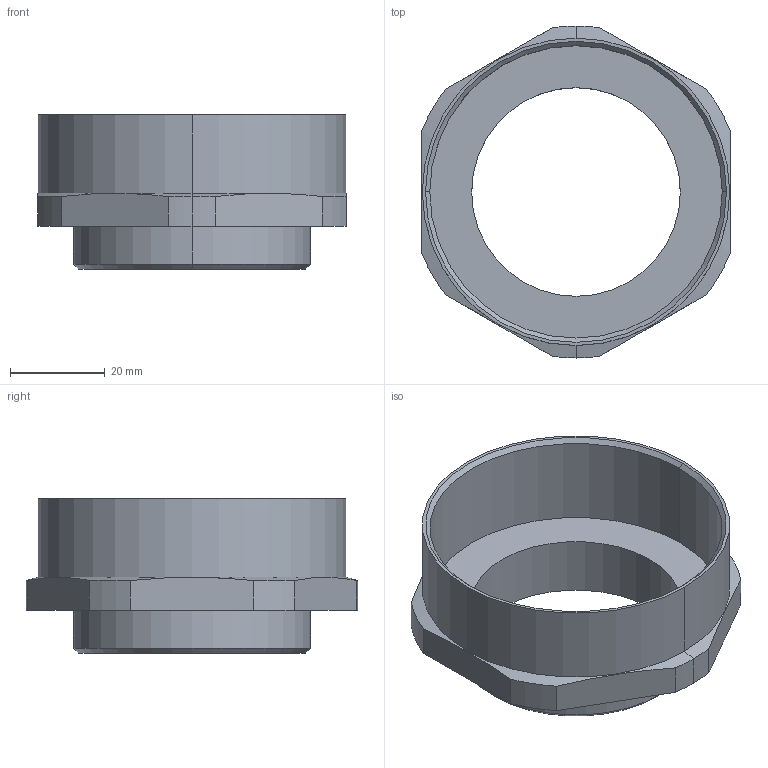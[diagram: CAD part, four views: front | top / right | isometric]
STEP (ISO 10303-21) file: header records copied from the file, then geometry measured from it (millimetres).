
FILE_DESCRIPTION (( 'STEP AP203' ), '1' );
FILE_NAME ('M50M63-FR.STEP', '2005-10-10T08:36:12', ( ' ' ), ( '' ), 'SwSTEP 2.0', 'SolidWorks 2005143', '' );
FILE_SCHEMA (( 'CONFIG_CONTROL_DESIGN' ));
Length unit declared in the file: millimetre
Products named in the file (1): M50M63-FR
Bounding box: 65 x 70 x 32.5 mm (x, y, z)
Volume: 18207.8 mm3; surface area: 15760.1 mm2
Topology: 1 solids, 1 shells, 68 faces, 176 edges, 115 vertices
Faces by surface type: plane 47, cylinder 15, cone 6
Entity records: 2178 total; most frequent: CARTESIAN_POINT 410, ORIENTED_EDGE 352, DIRECTION 343, EDGE_CURVE 176, VECTOR 135, LINE 135, VERTEX_POINT 115, AXIS2_PLACEMENT_3D 104
